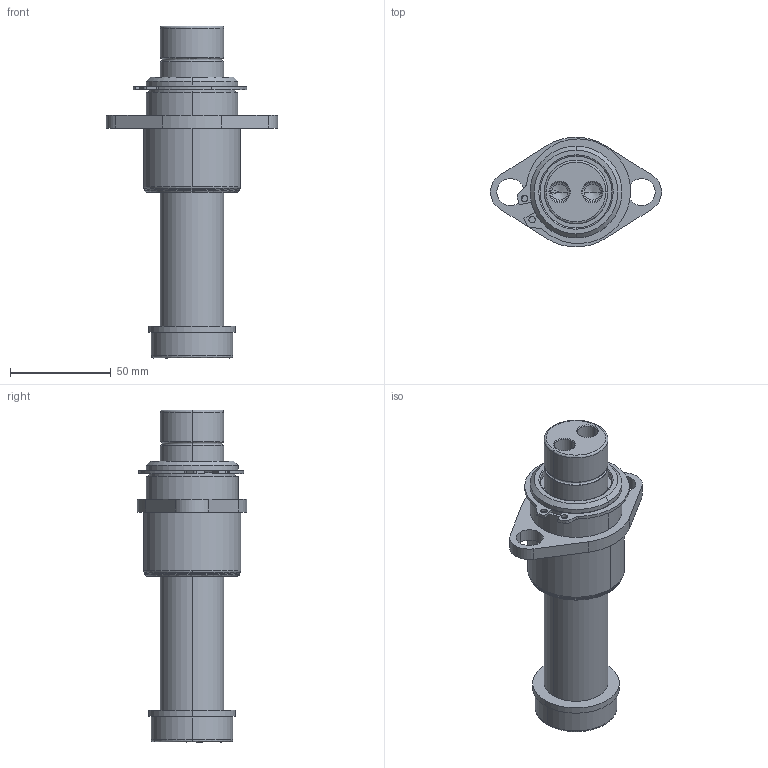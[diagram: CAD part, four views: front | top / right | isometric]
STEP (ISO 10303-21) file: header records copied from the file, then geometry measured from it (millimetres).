
FILE_DESCRIPTION (( 'STEP AP214' ), '1' );
FILE_NAME ('GK122-N2-1-BP-E-XXX.STEP', '2020-09-21T17:45:41', ( '' ), ( '' ), 'SwSTEP 2.0', 'SolidWorks 2017', '' );
FILE_SCHEMA (( 'AUTOMOTIVE_DESIGN' ));
Length unit declared in the file: inch
Products named in the file (7): GK122-N2-1-BP-E-XXX; GK122-E-XXX-GuidePin; RetainingRing; GK1.25-N2-1-BP-Base; GK122-DampeningWasher
Assembly tree (6 placements, depth 3):
  GK122-N2-1-BP-E-XXX
    GK1.25-N2-1-BP-Base
      GK1.25-N2-1-BP-Base
      RetainingRing
    GK122-E-XXX-GuidePin
      GK122-E-XXX-GuidePin
      GK122-DampeningWasher
Bounding box: 85.09 x 54.52 x 165.1 mm (x, y, z)
Volume: 193945.5 mm3; surface area: 44730 mm2
Topology: 4 solids, 4 shells, 139 faces, 315 edges, 192 vertices
Faces by surface type: cylinder 63, bspline 30, plane 24, cone 22
Entity records: 5422 total; most frequent: CARTESIAN_POINT 1917, DIRECTION 681, ORIENTED_EDGE 622, EDGE_CURVE 311, AXIS2_PLACEMENT_3D 280, VERTEX_POINT 192, EDGE_LOOP 163, CIRCLE 160
